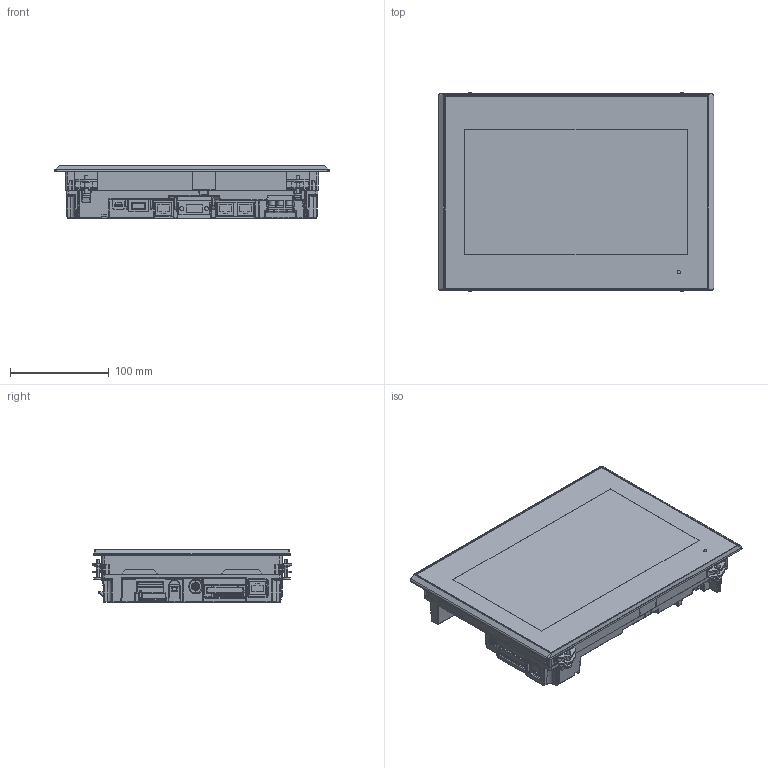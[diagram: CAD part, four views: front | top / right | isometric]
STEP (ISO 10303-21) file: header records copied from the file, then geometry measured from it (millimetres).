
FILE_DESCRIPTION((''),'2;1');
FILE_NAME('V9100IWRLD_3D-DATA','2014-11-10T',('oda'),('Hakko Electronics Co.,Ltd.'),'PRO/ENGINEER BY PARAMETRIC TECHNOLOGY CORPORATION, 2011330','PRO/ENGINEER BY PARAMETRIC TECHNOLOGY CORPORATION, 2011330','');
FILE_SCHEMA(('CONFIG_CONTROL_DESIGN'));
Products named in the file (1): V9100IWRLD_3D-DATA
Bounding box: 278.5 x 201.4 x 53.2 mm (x, y, z)
Volume: 2304225.5 mm3; surface area: 173547.7 mm2
Topology: 1 solids, 1 shells, 2150 faces, 5624 edges, 3568 vertices
Faces by surface type: plane 1334, cylinder 491, bspline 112, cone 93, sphere 65, torus 42, extrusion 13
Entity records: 81277 total; most frequent: CARTESIAN_POINT 29976, ORIENTED_EDGE 11240, DIRECTION 9609, EDGE_CURVE 5620, VECTOR 3979, LINE 3966, VERTEX_POINT 3567, AXIS2_PLACEMENT_3D 2815
